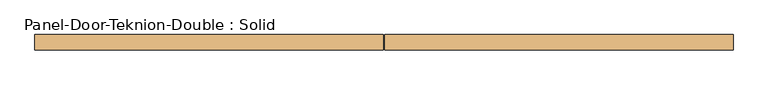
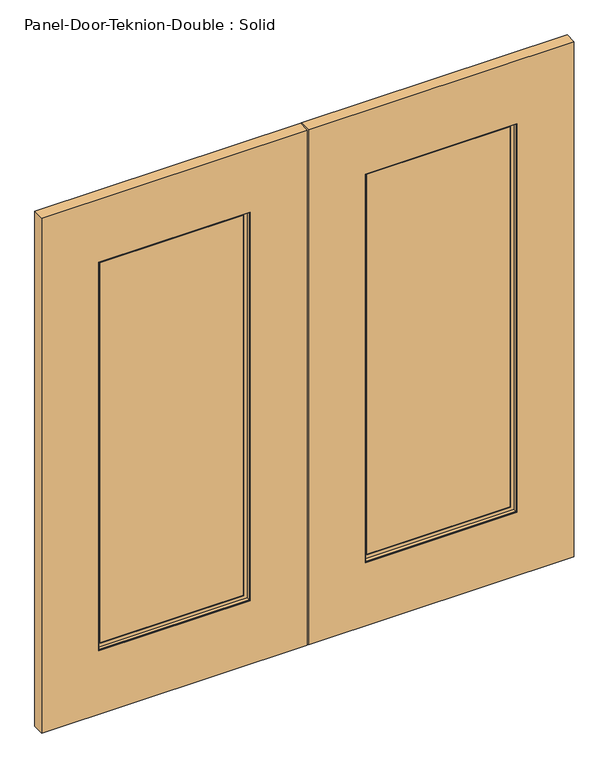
"""IFC4 building model written with IfcOpenShell, lengths in millimetres: door geometry, Panel-Door-Teknion-Double : Solid."""

from ifc_helpers import new_model, si_unit, frame, origin, place, context, project, spatial, polyline, outline, extrude, faceted_brep, source, transform, mapped, element, save


def panel_door_teknion_double_solid_a54a2ffe(model_context):
    return source(origin(), model_context, "Body", "SolidModel", [
        extrude(outline(polyline([(2078.9825997, -520.7002565), (12.7, -520.7002565), (12.7, 487.3625), (2078.9825997, 487.3625), (2078.9825997, -520.7002565)]), holes=[polyline([(1824.9825997, 271.4625), (266.7, 271.4625), (266.7, -304.8002565), (1824.9825997, -304.8002565), (1824.9825997, 271.4625)])]), frame((0.0, -22.225, 0.0), z_axis=(0.0, 1.0, 0.0), x_axis=(0.0, 0.0, 1.0)), (0.0, 0.0, 1.0), 44.45),
        extrude(outline(polyline([(2078.9825997, 492.4425), (12.7, 492.4425), (12.7, 1500.4978563), (2078.9825997, 1500.4978563), (2078.9825997, 492.4425)]), holes=[polyline([(1824.9825997, 1284.5978563), (266.7, 1284.5978563), (266.7, 708.3425), (1824.9825997, 708.3425), (1824.9825997, 1284.5978563)])]), frame((0.0, -22.225, 0.0), z_axis=(0.0, 1.0, 0.0), x_axis=(0.0, 0.0, 1.0)), (0.0, 0.0, 1.0), 44.45),
        extrude(outline(polyline([(271.4625, -3.175), (-304.8002565, -3.175), (-304.8002565, 3.175), (271.4625, 3.175), (271.4625, -3.175)])), frame((0.0, 0.0, 266.7), z_axis=(0.0, 0.0, 1.0), x_axis=(1.0, 0.0, 0.0)), (0.0, 0.0, 1.0), 1558.2825997),
        extrude(outline(polyline([(1284.5978563, -3.175), (708.3425, -3.175), (708.3425, 3.175), (1284.5978563, 3.175), (1284.5978563, -3.175)])), frame((0.0, 0.0, 266.7), z_axis=(0.0, 0.0, 1.0), x_axis=(1.0, 0.0, 0.0)), (0.0, 0.0, 1.0), 1558.2825997),
        faceted_brep([(724.233079, 3.797467, 1809.0920207), (724.233079, 3.797467, 282.590579), (724.233079, 6.9755828, 282.590579), (724.233079, 6.9755828, 1809.0920207), (1268.7072773, 3.797467, 282.590579), (1268.7072773, 6.9755828, 282.590579), (1281.4197405, 6.9755828, 269.8781158), (711.5206158, 6.9755828, 269.8781158), (711.5206158, 6.9755828, 1821.8044839), (1281.4197405, 6.9755828, 1821.8044839), (1268.7072773, 6.9755828, 1809.0920207), (1268.7072773, 3.797467, 1809.0920207), (708.3425, 3.797467, 266.7), (1284.5978563, 3.797467, 266.7), (1284.5978563, 3.797467, 1824.9825997), (708.3425, 3.797467, 1824.9825997), (708.3425, 19.688046, 1824.9825997), (708.3425, 19.688046, 266.7), (1284.5978563, 19.688046, 266.7), (1284.5978563, 19.688046, 1824.9825997), (711.5206158, 19.688046, 269.8781158), (1281.4197405, 19.688046, 269.8781158), (1281.4197405, 19.688046, 1821.8044839), (711.5206158, 19.688046, 1821.8044839)], [[[0, 1, 2, 3]], [[1, 4, 5, 2]], [[6, 7, 8, 9], [2, 5, 10, 3]], [[4, 11, 10, 5]], [[12, 13, 14, 15], [4, 1, 0, 11]], [[16, 17, 12, 15]], [[17, 18, 13, 12]], [[18, 19, 14, 13]], [[18, 17, 16, 19], [20, 21, 22, 23]], [[8, 7, 20, 23]], [[7, 6, 21, 20]], [[6, 9, 22, 21]], [[11, 0, 3, 10]], [[19, 16, 15, 14]], [[9, 8, 23, 22]]]),
        faceted_brep([(711.5206158, -19.688046, 1821.8044839), (711.5206158, -19.688046, 269.8781158), (711.5206158, -6.9755828, 269.8781158), (711.5206158, -6.9755828, 1821.8044839), (1281.4197405, -19.688046, 269.8781158), (1281.4197405, -6.9755828, 269.8781158), (1281.4197405, -6.9755828, 1821.8044839), (1268.7072773, -6.9755828, 282.590579), (724.233079, -6.9755828, 282.590579), (724.233079, -6.9755828, 1809.0920207), (1268.7072773, -6.9755828, 1809.0920207), (1281.4197405, -19.688046, 1821.8044839), (708.3425, -19.688046, 266.7), (1284.5978563, -19.688046, 266.7), (1284.5978563, -19.688046, 1824.9825997), (708.3425, -19.688046, 1824.9825997), (708.3425, -3.797467, 1824.9825997), (708.3425, -3.797467, 266.7), (1284.5978563, -3.797467, 266.7), (1284.5978563, -3.797467, 1824.9825997), (724.233079, -3.797467, 282.590579), (1268.7072773, -3.797467, 282.590579), (1268.7072773, -3.797467, 1809.0920207), (724.233079, -3.797467, 1809.0920207)], [[[0, 1, 2, 3]], [[1, 4, 5, 2]], [[2, 5, 6, 3], [7, 8, 9, 10]], [[4, 11, 6, 5]], [[12, 13, 14, 15], [4, 1, 0, 11]], [[16, 17, 12, 15]], [[17, 18, 13, 12]], [[18, 19, 14, 13]], [[18, 17, 16, 19], [20, 21, 22, 23]], [[9, 8, 20, 23]], [[8, 7, 21, 20]], [[7, 10, 22, 21]], [[11, 0, 3, 6]], [[19, 16, 15, 14]], [[10, 9, 23, 22]]]),
        faceted_brep([(-288.9096776, 3.797467, 1809.0920207), (-288.9096776, 3.797467, 282.590579), (-288.9096776, 6.9755828, 282.590579), (-288.9096776, 6.9755828, 1809.0920207), (255.571921, 3.797467, 282.590579), (255.571921, 6.9755828, 282.590579), (268.2843842, 6.9755828, 269.8781158), (-301.6221407, 6.9755828, 269.8781158), (-301.6221407, 6.9755828, 1821.8044839), (268.2843842, 6.9755828, 1821.8044839), (255.571921, 6.9755828, 1809.0920207), (255.571921, 3.797467, 1809.0920207), (-304.8002565, 3.797467, 266.7), (271.4625, 3.797467, 266.7), (271.4625, 3.797467, 1824.9825997), (-304.8002565, 3.797467, 1824.9825997), (-304.8002565, 19.688046, 1824.9825997), (-304.8002565, 19.688046, 266.7), (271.4625, 19.688046, 266.7), (271.4625, 19.688046, 1824.9825997), (-301.6221407, 19.688046, 269.8781158), (268.2843842, 19.688046, 269.8781158), (268.2843842, 19.688046, 1821.8044839), (-301.6221407, 19.688046, 1821.8044839)], [[[0, 1, 2, 3]], [[1, 4, 5, 2]], [[6, 7, 8, 9], [2, 5, 10, 3]], [[4, 11, 10, 5]], [[12, 13, 14, 15], [4, 1, 0, 11]], [[16, 17, 12, 15]], [[17, 18, 13, 12]], [[18, 19, 14, 13]], [[18, 17, 16, 19], [20, 21, 22, 23]], [[8, 7, 20, 23]], [[7, 6, 21, 20]], [[6, 9, 22, 21]], [[11, 0, 3, 10]], [[19, 16, 15, 14]], [[9, 8, 23, 22]]]),
        faceted_brep([(-301.6221407, -19.688046, 1821.8044839), (-301.6221407, -19.688046, 269.8781158), (-301.6221407, -6.9755828, 269.8781158), (-301.6221407, -6.9755828, 1821.8044839), (268.2843842, -19.688046, 269.8781158), (268.2843842, -6.9755828, 269.8781158), (268.2843842, -6.9755828, 1821.8044839), (255.571921, -6.9755828, 282.590579), (-288.9096776, -6.9755828, 282.590579), (-288.9096776, -6.9755828, 1809.0920207), (255.571921, -6.9755828, 1809.0920207), (268.2843842, -19.688046, 1821.8044839), (-304.8002565, -19.688046, 266.7), (271.4625, -19.688046, 266.7), (271.4625, -19.688046, 1824.9825997), (-304.8002565, -19.688046, 1824.9825997), (-304.8002565, -3.797467, 1824.9825997), (-304.8002565, -3.797467, 266.7), (271.4625, -3.797467, 266.7), (271.4625, -3.797467, 1824.9825997), (-288.9096776, -3.797467, 282.590579), (255.571921, -3.797467, 282.590579), (255.571921, -3.797467, 1809.0920207), (-288.9096776, -3.797467, 1809.0920207)], [[[0, 1, 2, 3]], [[1, 4, 5, 2]], [[2, 5, 6, 3], [7, 8, 9, 10]], [[4, 11, 6, 5]], [[12, 13, 14, 15], [4, 1, 0, 11]], [[16, 17, 12, 15]], [[17, 18, 13, 12]], [[18, 19, 14, 13]], [[18, 17, 16, 19], [20, 21, 22, 23]], [[9, 8, 20, 23]], [[8, 7, 21, 20]], [[7, 10, 22, 21]], [[11, 0, 3, 6]], [[19, 16, 15, 14]], [[10, 9, 23, 22]]]),
    ])


if __name__ == "__main__":
    model = new_model("IFC4")
    model_context = context("Model", 3, world=origin())
    ifc_project = project(units=[si_unit("LENGTHUNIT", "METRE", prefix="MILLI")], contexts=[model_context])
    site = spatial("IfcSite", under=ifc_project)
    building = spatial("IfcBuilding", under=site)
    placement = place(None, origin())
    panel_door_teknion_double_solid_shape = panel_door_teknion_double_solid_a54a2ffe(model_context)
    element("IfcDoor", 1, ObjectType="Panel-Door-Teknion-Double : Solid", at=placement, inside=building, context=model_context, shape_type="MappedRepresentation", body=[
        mapped(panel_door_teknion_double_solid_shape, transform((0.0, 0.0, 0.0), x_axis=(1.0, 0.0, 0.0), y_axis=(0.0, 1.0, 0.0), z_axis=(0.0, 0.0, 1.0))),
    ])
    save(model, "model.ifc")
